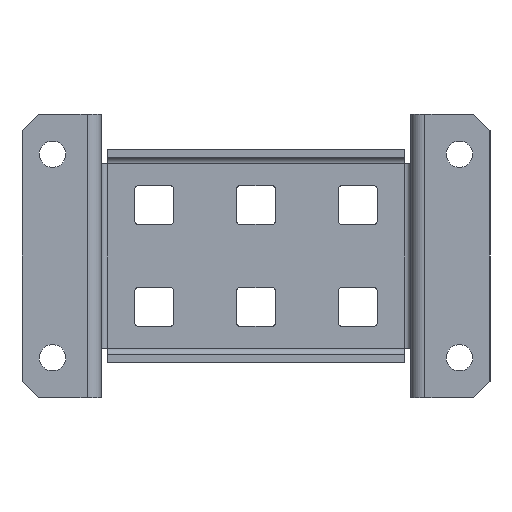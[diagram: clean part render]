
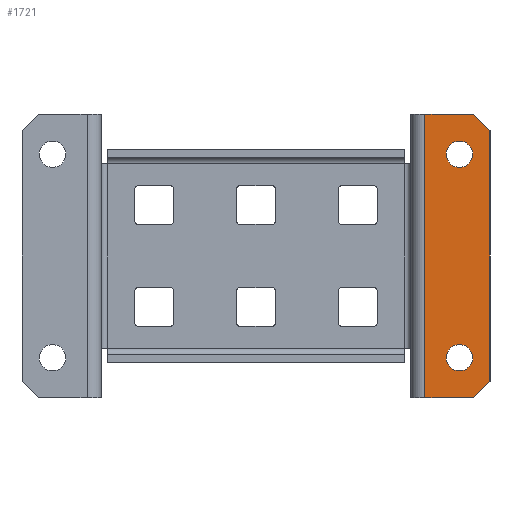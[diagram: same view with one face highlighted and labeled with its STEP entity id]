
A CAD part, front view. The second image highlights one B-rep face of the part: STEP entity #1721.
In plain terms, the highlighted planar face has unit normal (0, -1, 0).
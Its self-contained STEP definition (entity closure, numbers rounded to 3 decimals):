
#163 = EDGE_CURVE ( 'NONE', #7440, #6268, #8264, .T. ) ;
#255 = DIRECTION ( 'NONE',  ( 0., 0., 1. ) ) ;
#323 = EDGE_CURVE ( 'NONE', #4994, #6114, #7644, .T. ) ;
#451 = AXIS2_PLACEMENT_3D ( 'NONE', #1808, #3079, #1784 ) ;
#453 = CARTESIAN_POINT ( 'NONE',  ( 53.5, -100., 34.8 ) ) ;
#761 = CARTESIAN_POINT ( 'NONE',  ( 53.5, -100., 34.8 ) ) ;
#944 = EDGE_CURVE ( 'NONE', #5384, #4567, #6823, .T. ) ;
#1017 = ORIENTED_EDGE ( 'NONE', *, *, #163, .T. ) ;
#1375 = CARTESIAN_POINT ( 'NONE',  ( 41.5, -100., -34.8 ) ) ;
#1508 = CARTESIAN_POINT ( 'NONE',  ( 53.5, -100., -34.8 ) ) ;
#1579 = DIRECTION ( 'NONE',  ( 0., 1., 0. ) ) ;
#1647 = LINE ( 'NONE', #7990, #1754 ) ;
#1699 = DIRECTION ( 'NONE',  ( 0., 1., 0. ) ) ;
#1721 = ADVANCED_FACE ( 'NONE', ( #8018, #2313, #5456 ), #8057, .F. ) ;
#1754 = VECTOR ( 'NONE', #7436, 1000. ) ;
#1784 = DIRECTION ( 'NONE',  ( 1., 0., 0. ) ) ;
#1808 = CARTESIAN_POINT ( 'NONE',  ( 50., -100., 25. ) ) ;
#1866 = EDGE_LOOP ( 'NONE', ( #7301, #3233 ) ) ;
#1885 = VECTOR ( 'NONE', #2591, 1000. ) ;
#1968 = EDGE_LOOP ( 'NONE', ( #5594, #5688 ) ) ;
#2013 = DIRECTION ( 'NONE',  ( 0., 0., 1. ) ) ;
#2102 = AXIS2_PLACEMENT_3D ( 'NONE', #3499, #4230, #8092 ) ;
#2142 = EDGE_CURVE ( 'NONE', #7440, #6950, #4613, .T. ) ;
#2231 = DIRECTION ( 'NONE',  ( -1., 0., 0. ) ) ;
#2313 = FACE_BOUND ( 'NONE', #1866, .T. ) ;
#2400 = DIRECTION ( 'NONE',  ( 1., 0., 0. ) ) ;
#2550 = LINE ( 'NONE', #4077, #7261 ) ;
#2591 = DIRECTION ( 'NONE',  ( -0.707, 0., 0.707 ) ) ;
#2617 = ORIENTED_EDGE ( 'NONE', *, *, #944, .T. ) ;
#2784 = CARTESIAN_POINT ( 'NONE',  ( 41.5, -100., 34.8 ) ) ;
#2827 = CIRCLE ( 'NONE', #2995, 3.25 ) ;
#2993 = ORIENTED_EDGE ( 'NONE', *, *, #5568, .T. ) ;
#2995 = AXIS2_PLACEMENT_3D ( 'NONE', #7554, #5687, #3833 ) ;
#3079 = DIRECTION ( 'NONE',  ( 0., 1., 0. ) ) ;
#3106 = EDGE_CURVE ( 'NONE', #4567, #8078, #6109, .T. ) ;
#3233 = ORIENTED_EDGE ( 'NONE', *, *, #7518, .T. ) ;
#3418 = CARTESIAN_POINT ( 'NONE',  ( 53.25, -100., -25. ) ) ;
#3440 = VECTOR ( 'NONE', #8055, 1000. ) ;
#3499 = CARTESIAN_POINT ( 'NONE',  ( 57.5, -100., 34.8 ) ) ;
#3639 = CARTESIAN_POINT ( 'NONE',  ( 57.5, -100., -34.8 ) ) ;
#3641 = CARTESIAN_POINT ( 'NONE',  ( 50., -100., 25. ) ) ;
#3833 = DIRECTION ( 'NONE',  ( -1., 0., 0. ) ) ;
#3928 = VECTOR ( 'NONE', #2013, 1000. ) ;
#4077 = CARTESIAN_POINT ( 'NONE',  ( 57.5, -100., 34.8 ) ) ;
#4125 = CARTESIAN_POINT ( 'NONE',  ( 46.75, -100., 25. ) ) ;
#4230 = DIRECTION ( 'NONE',  ( 0., 1., 0. ) ) ;
#4503 = AXIS2_PLACEMENT_3D ( 'NONE', #3641, #1699, #2400 ) ;
#4567 = VERTEX_POINT ( 'NONE', #6824 ) ;
#4597 = EDGE_CURVE ( 'NONE', #6114, #4994, #5195, .T. ) ;
#4613 = LINE ( 'NONE', #7340, #8006 ) ;
#4815 = ORIENTED_EDGE ( 'NONE', *, *, #3106, .T. ) ;
#4994 = VERTEX_POINT ( 'NONE', #4125 ) ;
#5044 = EDGE_CURVE ( 'NONE', #6268, #5384, #1647, .T. ) ;
#5129 = CARTESIAN_POINT ( 'NONE',  ( 57.5, -100., 34.8 ) ) ;
#5195 = CIRCLE ( 'NONE', #4503, 3.25 ) ;
#5310 = VERTEX_POINT ( 'NONE', #8340 ) ;
#5384 = VERTEX_POINT ( 'NONE', #6448 ) ;
#5456 = FACE_OUTER_BOUND ( 'NONE', #6286, .T. ) ;
#5568 = EDGE_CURVE ( 'NONE', #8078, #6950, #2550, .T. ) ;
#5594 = ORIENTED_EDGE ( 'NONE', *, *, #323, .T. ) ;
#5613 = ORIENTED_EDGE ( 'NONE', *, *, #2142, .F. ) ;
#5687 = DIRECTION ( 'NONE',  ( 0., 1., 0. ) ) ;
#5688 = ORIENTED_EDGE ( 'NONE', *, *, #4597, .T. ) ;
#5921 = CIRCLE ( 'NONE', #7347, 3.25 ) ;
#6086 = DIRECTION ( 'NONE',  ( -1., 0., 0. ) ) ;
#6109 = LINE ( 'NONE', #453, #1885 ) ;
#6114 = VERTEX_POINT ( 'NONE', #6579 ) ;
#6138 = VERTEX_POINT ( 'NONE', #3418 ) ;
#6268 = VERTEX_POINT ( 'NONE', #1508 ) ;
#6286 = EDGE_LOOP ( 'NONE', ( #2617, #4815, #2993, #5613, #1017, #6332 ) ) ;
#6332 = ORIENTED_EDGE ( 'NONE', *, *, #5044, .T. ) ;
#6374 = EDGE_CURVE ( 'NONE', #5310, #6138, #2827, .T. ) ;
#6448 = CARTESIAN_POINT ( 'NONE',  ( 57.5, -100., -30.8 ) ) ;
#6579 = CARTESIAN_POINT ( 'NONE',  ( 53.25, -100., 25. ) ) ;
#6823 = LINE ( 'NONE', #5129, #3928 ) ;
#6824 = CARTESIAN_POINT ( 'NONE',  ( 57.5, -100., 30.8 ) ) ;
#6950 = VERTEX_POINT ( 'NONE', #2784 ) ;
#7261 = VECTOR ( 'NONE', #2231, 1000. ) ;
#7301 = ORIENTED_EDGE ( 'NONE', *, *, #6374, .T. ) ;
#7340 = CARTESIAN_POINT ( 'NONE',  ( 41.5, -100., 34.8 ) ) ;
#7347 = AXIS2_PLACEMENT_3D ( 'NONE', #8005, #1579, #6086 ) ;
#7436 = DIRECTION ( 'NONE',  ( 0.707, 0., 0.707 ) ) ;
#7440 = VERTEX_POINT ( 'NONE', #1375 ) ;
#7518 = EDGE_CURVE ( 'NONE', #6138, #5310, #5921, .T. ) ;
#7554 = CARTESIAN_POINT ( 'NONE',  ( 50., -100., -25. ) ) ;
#7644 = CIRCLE ( 'NONE', #451, 3.25 ) ;
#7990 = CARTESIAN_POINT ( 'NONE',  ( 57.5, -100., -30.8 ) ) ;
#8005 = CARTESIAN_POINT ( 'NONE',  ( 50., -100., -25. ) ) ;
#8006 = VECTOR ( 'NONE', #255, 1000. ) ;
#8018 = FACE_BOUND ( 'NONE', #1968, .T. ) ;
#8055 = DIRECTION ( 'NONE',  ( 1., 0., 0. ) ) ;
#8057 = PLANE ( 'NONE',  #2102 ) ;
#8078 = VERTEX_POINT ( 'NONE', #761 ) ;
#8092 = DIRECTION ( 'NONE',  ( -1., 0., 0. ) ) ;
#8264 = LINE ( 'NONE', #3639, #3440 ) ;
#8340 = CARTESIAN_POINT ( 'NONE',  ( 46.75, -100., -25. ) ) ;
